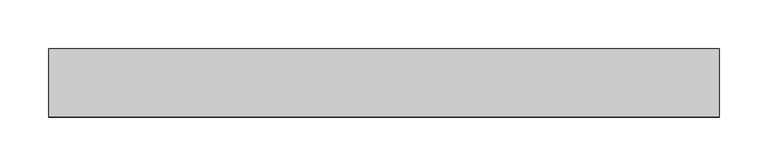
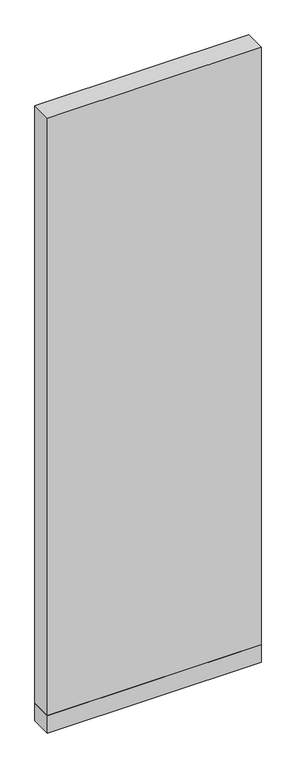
"""IFC4 building model written with IfcOpenShell, lengths in millimetres: plate geometry, 営_パーティションパネル_下部 : パーティションパネル_下部."""

import ifcopenshell
import ifcopenshell.guid

model = None  # the IFC model being written
_history = None  # IfcOwnerHistory: only IFC2X3 demands one
_inside = {}  # id of a spatial element -> (the spatial element, [elements in it])
_under = {}  # id of a project, library or spatial element -> (it, [spatial elements below it])
_declared = {}  # id of a project -> (the project, [libraries it declares])
_typed = {}  # id of a type object -> (the type object, [elements of that type])
_made_of = {}  # id of a material, layer set ... -> (it, [elements and type objects made of it])


def new_model(schema):
    """Start an empty IFC model of exactly this schema.

    Asked for "IFC4X3", IfcOpenShell would pick the latest addendum, in which some entities
    have other attributes; the version numbers below select the first issue.
    IFC2X3 requires an IfcOwnerHistory on every rooted entity: one is made here for all.
    """
    global model, _history
    if schema == "IFC4X3":
        model = ifcopenshell.file(schema_version=(4, 3, 0, 0))
    else:
        model = ifcopenshell.file(schema=schema)
    _inside.clear()
    _under.clear()
    _declared.clear()
    _typed.clear()
    _made_of.clear()
    _history = None
    if model.schema == "IFC2X3":
        org = make("IfcOrganization", Name="unknown")
        user = make(
            "IfcPersonAndOrganization",
            ThePerson=make("IfcPerson", FamilyName="unknown"),
            TheOrganization=org,
        )
        app = make(
            "IfcApplication",
            ApplicationDeveloper=org,
            Version="unknown",
            ApplicationFullName="unknown",
            ApplicationIdentifier="unknown",
        )
        _history = make(
            "IfcOwnerHistory",
            OwningUser=user,
            OwningApplication=app,
            ChangeAction="ADDED",
            CreationDate=0,
        )
    return model


def make(cls, **values):
    """One entity of the class cls with the attributes given. An attribute that is None is left unset."""
    return model.create_entity(
        cls, **{name: value for name, value in values.items() if value is not None}
    )


def rooted(cls, **values):
    """An entity with a GlobalId (a new one), such as an element, a storey or a relation."""
    return make(cls, GlobalId=ifcopenshell.guid.new(), OwnerHistory=_history, **values)


def si_unit(unit_type, name, prefix=None):
    """IfcSIUnit, for example si_unit("LENGTHUNIT", "METRE", prefix="MILLI")."""
    return make("IfcSIUnit", UnitType=unit_type, Prefix=prefix, Name=name)


def assignment(units):
    """IfcUnitAssignment: the units of a project."""
    return None if units is None else make("IfcUnitAssignment", Units=units)


def point(xyz):
    """IfcCartesianPoint."""
    return None if xyz is None else make("IfcCartesianPoint", Coordinates=xyz)


def direction(xyz):
    """IfcDirection."""
    return None if xyz is None else make("IfcDirection", DirectionRatios=xyz)


def frame(location, z_axis=None, x_axis=None):
    """IfcAxis2Placement3D, a coordinate frame: its origin and axes. An axis left out is left unset."""
    return make(
        "IfcAxis2Placement3D",
        Location=point(location),
        Axis=direction(z_axis),
        RefDirection=direction(x_axis),
    )


def origin():
    """The frame at (0, 0, 0) with its axes left unset."""
    return frame((0.0, 0.0, 0.0))


def origin_with_axes():
    """The frame at (0, 0, 0) with the z axis (0, 0, 1) and the x axis (1, 0, 0) written out."""
    return frame((0.0, 0.0, 0.0), z_axis=(0.0, 0.0, 1.0), x_axis=(1.0, 0.0, 0.0))


def place(relative_to, where):
    """IfcLocalPlacement: puts the frame where relative to a parent placement (None: the world)."""
    return make(
        "IfcLocalPlacement", PlacementRelTo=relative_to, RelativePlacement=where
    )


def context(
    kind, dimensions, precision=None, world=None, true_north=None, identifier=None
):
    """IfcGeometricRepresentationContext, for example the 3D "Model" context."""
    return make(
        "IfcGeometricRepresentationContext",
        ContextIdentifier=identifier,
        ContextType=kind,
        CoordinateSpaceDimension=dimensions,
        Precision=precision,
        WorldCoordinateSystem=world,
        TrueNorth=true_north,
    )


def project(units=None, contexts=None):
    """IfcProject with its units and contexts."""
    return rooted(
        "IfcProject",
        Name="project",
        RepresentationContexts=contexts,
        UnitsInContext=assignment(units),
    )


def spatial(cls, under=None, at=None, **own):
    """A site, building, storey or space (cls), placed at a placement, below another one or the project."""
    s = rooted(cls, ObjectPlacement=at, **own)
    if under is not None:
        _under.setdefault(under.id(), (under, []))[1].append(s)
    return s


def polyline(points):
    """IfcPolyline through the points."""
    return make("IfcPolyline", Points=[point(p) for p in points])


def outline(outer, holes=None, kind="AREA"):
    """IfcArbitraryClosedProfileDef: a profile drawn as a closed curve; with holes, ...WithVoids."""
    if holes is None:
        return make("IfcArbitraryClosedProfileDef", ProfileType=kind, OuterCurve=outer)
    return make(
        "IfcArbitraryProfileDefWithVoids",
        ProfileType=kind,
        OuterCurve=outer,
        InnerCurves=holes,
    )


def extrude(swept, where, along, depth):
    """IfcExtrudedAreaSolid: the profile swept, set in the frame where, extruded along a direction by depth."""
    return make(
        "IfcExtrudedAreaSolid",
        SweptArea=swept,
        Position=where,
        ExtrudedDirection=direction(along),
        Depth=depth,
    )


def shape(context_of_items, identifier, shape_type, items):
    """IfcShapeRepresentation: the items that make up one representation, for example the "Body"."""
    return make(
        "IfcShapeRepresentation",
        ContextOfItems=context_of_items,
        RepresentationIdentifier=identifier,
        RepresentationType=shape_type,
        Items=items,
    )


def source(mapping_origin, context_of_items, identifier, shape_type, items):
    """IfcRepresentationMap: a shape defined once, which mapped items show again and again."""
    return make(
        "IfcRepresentationMap",
        MappingOrigin=mapping_origin,
        MappedRepresentation=shape(context_of_items, identifier, shape_type, items),
    )


def transform(
    local_origin,
    x_axis=None,
    y_axis=None,
    z_axis=None,
    scale=None,
    scale2=None,
    scale3=None,
    uniform=True,
):
    """IfcCartesianTransformationOperator3D, or its non-uniform kind. x_axis, y_axis, z_axis: its Axis1, 2, 3."""
    if uniform:
        return make(
            "IfcCartesianTransformationOperator3D",
            Axis1=direction(x_axis),
            Axis2=direction(y_axis),
            LocalOrigin=point(local_origin),
            Scale=scale,
            Axis3=direction(z_axis),
        )
    return make(
        "IfcCartesianTransformationOperator3DnonUniform",
        Axis1=direction(x_axis),
        Axis2=direction(y_axis),
        LocalOrigin=point(local_origin),
        Scale=scale,
        Axis3=direction(z_axis),
        Scale2=scale2,
        Scale3=scale3,
    )


def mapped(mapping_source, mapping_target):
    """IfcMappedItem: shows the shape of a source again, moved by a transform."""
    return make(
        "IfcMappedItem", MappingSource=mapping_source, MappingTarget=mapping_target
    )


def made_of(thing, what):
    """Note that an element or type object is made of a material, layer set ...; save() writes the relation."""
    if what is not None:
        _made_of.setdefault(what.id(), (what, []))[1].append(thing)
    return thing


def element(
    cls,
    number,
    at=None,
    inside=None,
    cuts=None,
    type_object=None,
    material=None,
    context=None,
    identifier="Body",
    shape_type=None,
    held_by="IfcProductDefinitionShape",
    body=None,
    shapes=None,
    **own,
):
    """One element of the class cls, such as IfcWall. Its Tag is "e" and its number.

    at: its placement. inside: the storey or other place that contains it. cuts: it is an
    opening in that element (IfcRelVoidsElement). A single representation is given by context,
    identifier, shape_type and body (its items); several are given by shapes. held_by: the class
    of the entity that holds the representations. save() writes the other relations.
    """
    e = rooted(cls, Tag="e%d" % number, ObjectPlacement=at, **own)
    if body is not None:
        shapes = [shape(context, identifier, shape_type, body)]
    if shapes is not None:
        e.Representation = make(held_by, Representations=shapes)
    if inside is not None:
        _inside.setdefault(inside.id(), (inside, []))[1].append(e)
    if cuts is not None:
        rooted(
            "IfcRelVoidsElement", RelatingBuildingElement=cuts, RelatedOpeningElement=e
        )
    if type_object is not None:
        _typed.setdefault(type_object.id(), (type_object, []))[1].append(e)
    return made_of(e, material)


def aggregate(whole, parts):
    """IfcRelAggregates: a whole, such as a stair, and the parts it consists of."""
    return rooted("IfcRelAggregates", RelatingObject=whole, RelatedObjects=parts)


def save(model, path):
    """Write the relations noted so far, then the file.

    IfcRelAggregates (storeys below a building ...), IfcRelContainedInSpatialStructure (elements
    in a storey), IfcRelDefinesByType, IfcRelAssociatesMaterial and IfcRelDeclares: one each for
    every whole, place, type object, material and project.
    """
    for whole, parts in _under.values():
        aggregate(whole, parts)
    for where, things in _inside.values():
        rooted(
            "IfcRelContainedInSpatialStructure",
            RelatedElements=things,
            RelatingStructure=where,
        )
    for kind, things in _typed.values():
        rooted("IfcRelDefinesByType", RelatedObjects=things, RelatingType=kind)
    for what, things in _made_of.values():
        rooted("IfcRelAssociatesMaterial", RelatedObjects=things, RelatingMaterial=what)
    for by, libraries in _declared.values():
        rooted("IfcRelDeclares", RelatingContext=by, RelatedDefinitions=libraries)
    model.write(path)


def plate_b2ca1a00(model_context):
    return source(origin(), model_context, "Body", "SweptSolid", [
        extrude(outline(polyline([(-344.9999998, -35.0), (-344.9999998, 35.0), (344.9999998, 35.0), (344.9999998, -35.0), (-344.9999998, -35.0)])), origin_with_axes(), (0.0, 0.0, 1.0), 60.0),
        extrude(outline(polyline([(-344.9999998, -35.0), (-344.9999998, 35.0), (344.9999998, 35.0), (344.9999998, -35.0), (-344.9999998, -35.0)])), frame((0.0, 0.0, 60.0), z_axis=(0.0, 0.0, 1.0), x_axis=(1.0, 0.0, 0.0)), (0.0, 0.0, 1.0), 2040.0),
    ])


if __name__ == "__main__":
    model = new_model("IFC4")
    model_context = context("Model", 3, world=origin())
    ifc_project = project(units=[si_unit("LENGTHUNIT", "METRE", prefix="MILLI")], contexts=[model_context])
    site = spatial("IfcSite", under=ifc_project)
    building = spatial("IfcBuilding", under=site)
    placement = place(None, origin())
    plate_shape = plate_b2ca1a00(model_context)
    element("IfcPlate", 1, ObjectType="営_パーティションパネル_下部 : パーティションパネル_下部", at=placement, inside=building, context=model_context, shape_type="MappedRepresentation", body=[
        mapped(plate_shape, transform((0.0, 0.0, 0.0), x_axis=(1.0, 0.0, 0.0), y_axis=(0.0, 1.0, 0.0), z_axis=(0.0, 0.0, 1.0))),
    ])
    save(model, "model.ifc")
